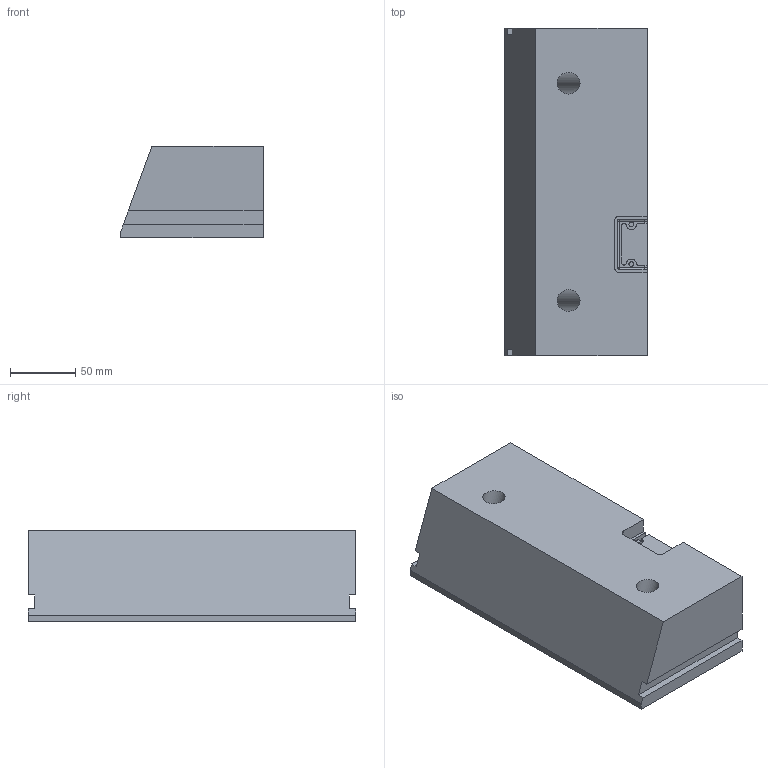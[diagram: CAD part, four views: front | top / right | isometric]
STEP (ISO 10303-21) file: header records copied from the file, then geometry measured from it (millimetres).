
FILE_DESCRIPTION( ( 'Unknown' ), '1' );
FILE_NAME( 'E:/Drawing Files Other/Dave/CDP/Support-Bracket 91mm Pitch/Support Bracket 91 Mould/Slide B.stp', 'Unknown', ( 'Unknown' ), ( 'Unknown' ), 'PSStep 15.0.49', 'Unknown', ' ' );
FILE_SCHEMA( ( 'AUTOMOTIVE_DESIGN { 1 0 10303 214 1 1 1 1 }' ) );
Length unit declared in the file: millimetre
Products named in the file (2): 1; 2
Bounding box: 108.66 x 250 x 70 mm (x, y, z)
Volume: 1620053.2 mm3; surface area: 114156.8 mm2
Topology: 2 solids, 2 shells, 200 faces, 493 edges, 308 vertices
Faces by surface type: plane 93, cylinder 65, torus 20, cone 12, bspline 8, sphere 2
Full cylindrical faces by diameter (mm): 2.222 x4, 3.333 x2, 3.535 x4, 4.04 x2, 5.555 x2, 7.07 x2, 10.1 x2, 16.5 x2
Entity records: 9125 total; most frequent: CARTESIAN_POINT 2985, DIRECTION 955, ORIENTED_EDGE 882, EDGE_CURVE 441, AXIS2_PLACEMENT_3D 350, VERTEX_POINT 290, LINE 255, VECTOR 255
